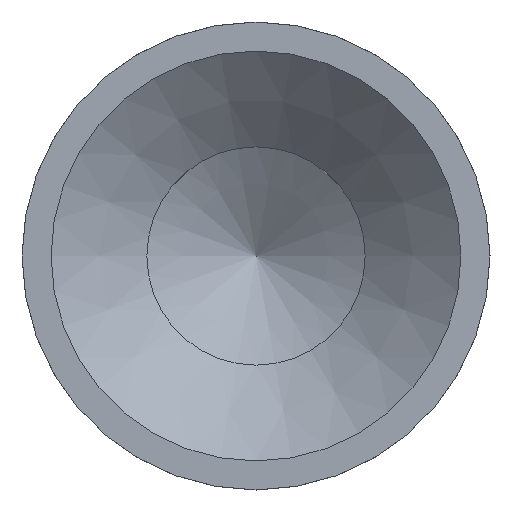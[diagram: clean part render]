
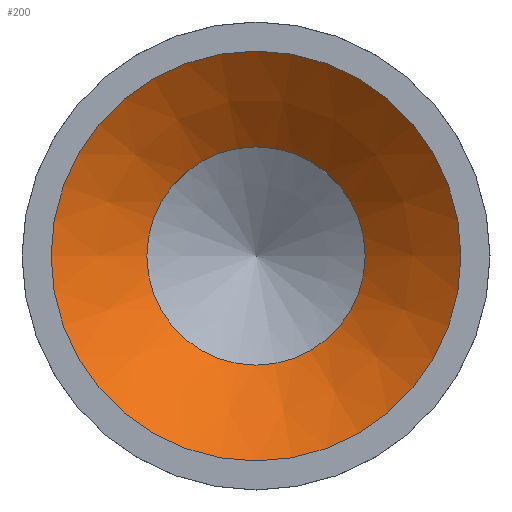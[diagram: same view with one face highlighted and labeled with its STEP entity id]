
A CAD part, left-side view. The second image highlights one B-rep face of the part: STEP entity #200.
In plain terms, the highlighted conical face has half-angle 50 degrees and reference radius 0.584 mm.
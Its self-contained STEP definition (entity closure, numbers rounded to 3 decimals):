
#16=CONICAL_SURFACE($,#228,0.584,50.);
#38=FACE_BOUND($,#82,.T.);
#60=FACE_OUTER_BOUND($,#81,.T.);
#81=EDGE_LOOP($,(#169));
#82=EDGE_LOOP($,(#170));
#111=CIRCLE($,#229,0.622);
#112=CIRCLE($,#230,1.168);
#129=VERTEX_POINT($,#411);
#130=VERTEX_POINT($,#413);
#147=EDGE_CURVE($,#129,#129,#111,.T.);
#148=EDGE_CURVE($,#130,#130,#112,.T.);
#169=ORIENTED_EDGE($,*,*,#147,.F.);
#170=ORIENTED_EDGE($,*,*,#148,.T.);
#200=ADVANCED_FACE($,(#60,#38),#16,.F.);
#228=AXIS2_PLACEMENT_3D($,#410,#278,#279);
#229=AXIS2_PLACEMENT_3D($,#412,#280,#281);
#230=AXIS2_PLACEMENT_3D($,#414,#282,#283);
#278=DIRECTION('center_axis',(-1.,0.,0.));
#279=DIRECTION('ref_axis',(0.,-1.,0.));
#280=DIRECTION('center_axis',(-1.,0.,0.));
#281=DIRECTION('ref_axis',(0.,-1.,0.));
#282=DIRECTION('center_axis',(-1.,0.,0.));
#283=DIRECTION('ref_axis',(0.,-1.,0.));
#410=CARTESIAN_POINT('Origin',(-5.377,0.,
0.));
#411=CARTESIAN_POINT('',(-5.409,0.622,0.));
#412=CARTESIAN_POINT('Origin',(-5.409,0.,
0.));
#413=CARTESIAN_POINT('',(-5.867,-1.168,0.));
#414=CARTESIAN_POINT('Origin',(-5.867,0.,0.));
